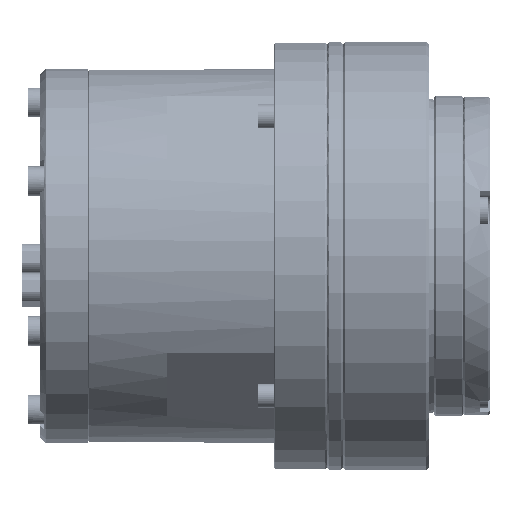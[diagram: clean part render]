
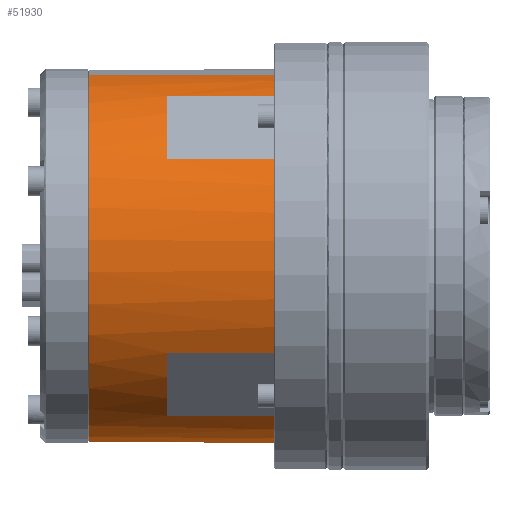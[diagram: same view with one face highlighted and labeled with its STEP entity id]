
A CAD part, front view. The second image highlights one B-rep face of the part: STEP entity #51930.
In plain terms, the highlighted cylindrical face has radius 35 mm (diameter 70 mm), a partial arc.
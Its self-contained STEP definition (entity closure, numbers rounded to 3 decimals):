
#2360 = DIRECTION ( 'NONE',  ( 1., 0., 0. ) ) ;
#5833 = ORIENTED_EDGE ( 'NONE', *, *, #343856, .F. ) ;
#6572 = CARTESIAN_POINT ( 'NONE',  ( -29., 0., 0. ) ) ;
#6830 = CARTESIAN_POINT ( 'NONE',  ( -29., -9.059, 33.807 ) ) ;
#24734 = ORIENTED_EDGE ( 'NONE', *, *, #319033, .F. ) ;
#25355 = LINE ( 'NONE', #253314, #280308 ) ;
#37752 = AXIS2_PLACEMENT_3D ( 'NONE', #384165, #204284, #54055 ) ;
#40112 = DIRECTION ( 'NONE',  ( 1., 0., 0. ) ) ;
#42541 = VERTEX_POINT ( 'NONE', #133344 ) ;
#43969 = CIRCLE ( 'NONE', #37752, 35. ) ;
#46710 = VECTOR ( 'NONE', #125293, 1000. ) ;
#47710 = EDGE_CURVE ( 'NONE', #150560, #266801, #103483, .T. ) ;
#50010 = CYLINDRICAL_SURFACE ( 'NONE', #305429, 35. ) ;
#50126 = DIRECTION ( 'NONE',  ( 1., 0., 0. ) ) ;
#51595 = EDGE_CURVE ( 'NONE', #150560, #105103, #305161, .T. ) ;
#51930 = ADVANCED_FACE ( 'NONE', ( #146780 ), #50010, .T. ) ;
#51941 = DIRECTION ( 'NONE',  ( 0., 0.259, -0.966 ) ) ;
#54055 = DIRECTION ( 'NONE',  ( 0., 0.259, -0.966 ) ) ;
#61007 = DIRECTION ( 'NONE',  ( -1., 0., 0. ) ) ;
#62400 = CARTESIAN_POINT ( 'NONE',  ( -49., -29.915, 18.168 ) ) ;
#73464 = CARTESIAN_POINT ( 'NONE',  ( -29., -18.168, -29.915 ) ) ;
#82034 = VERTEX_POINT ( 'NONE', #347558 ) ;
#91730 = CARTESIAN_POINT ( 'NONE',  ( -19., -18.168, -29.915 ) ) ;
#94415 = EDGE_CURVE ( 'NONE', #105103, #126835, #391058, .T. ) ;
#103483 = CIRCLE ( 'NONE', #198353, 35. ) ;
#105103 = VERTEX_POINT ( 'NONE', #73464 ) ;
#105657 = CARTESIAN_POINT ( 'NONE',  ( -63.5, -9.059, 33.807 ) ) ;
#105762 = CARTESIAN_POINT ( 'NONE',  ( -49., -29.915, -18.168 ) ) ;
#112237 = ORIENTED_EDGE ( 'NONE', *, *, #94415, .F. ) ;
#113631 = ORIENTED_EDGE ( 'NONE', *, *, #328148, .F. ) ;
#116163 = CIRCLE ( 'NONE', #318172, 35. ) ;
#124858 = DIRECTION ( 'NONE',  ( 0., -0.259, 0.966 ) ) ;
#125293 = DIRECTION ( 'NONE',  ( 1., 0., 0. ) ) ;
#126835 = VERTEX_POINT ( 'NONE', #356883 ) ;
#132349 = ORIENTED_EDGE ( 'NONE', *, *, #148297, .T. ) ;
#133344 = CARTESIAN_POINT ( 'NONE',  ( -49., -18.168, 29.915 ) ) ;
#136508 = CARTESIAN_POINT ( 'NONE',  ( -29., -18.168, 29.915 ) ) ;
#137834 = CARTESIAN_POINT ( 'NONE',  ( -49., 0., 0. ) ) ;
#146780 = FACE_OUTER_BOUND ( 'NONE', #368856, .T. ) ;
#148297 = EDGE_CURVE ( 'NONE', #289038, #42541, #43969, .T. ) ;
#150560 = VERTEX_POINT ( 'NONE', #170119 ) ;
#151192 = ORIENTED_EDGE ( 'NONE', *, *, #51595, .F. ) ;
#152576 = CARTESIAN_POINT ( 'NONE',  ( -29., 0., 0. ) ) ;
#168253 = VECTOR ( 'NONE', #61007, 1000. ) ;
#168510 = EDGE_CURVE ( 'NONE', #82034, #239165, #116163, .T. ) ;
#170119 = CARTESIAN_POINT ( 'NONE',  ( -49., -18.168, -29.915 ) ) ;
#171232 = LINE ( 'NONE', #351134, #216675 ) ;
#171455 = ORIENTED_EDGE ( 'NONE', *, *, #311752, .F. ) ;
#172697 = CARTESIAN_POINT ( 'NONE',  ( -29., 0., 0. ) ) ;
#178363 = ORIENTED_EDGE ( 'NONE', *, *, #390150, .F. ) ;
#185513 = LINE ( 'NONE', #304112, #207210 ) ;
#188985 = VERTEX_POINT ( 'NONE', #105657 ) ;
#198353 = AXIS2_PLACEMENT_3D ( 'NONE', #137834, #258412, #319639 ) ;
#204284 = DIRECTION ( 'NONE',  ( -1., 0., 0. ) ) ;
#205014 = VECTOR ( 'NONE', #246595, 1000. ) ;
#207210 = VECTOR ( 'NONE', #211295, 1000. ) ;
#211295 = DIRECTION ( 'NONE',  ( -1., 0., 0. ) ) ;
#213318 = ORIENTED_EDGE ( 'NONE', *, *, #264485, .T. ) ;
#214171 = EDGE_CURVE ( 'NONE', #188985, #235314, #315916, .T. ) ;
#216675 = VECTOR ( 'NONE', #291782, 1000. ) ;
#228075 = CARTESIAN_POINT ( 'NONE',  ( -63.5, 0., 0. ) ) ;
#235314 = VERTEX_POINT ( 'NONE', #292141 ) ;
#239165 = VERTEX_POINT ( 'NONE', #291653 ) ;
#246595 = DIRECTION ( 'NONE',  ( -1., 0., 0. ) ) ;
#253314 = CARTESIAN_POINT ( 'NONE',  ( -19., -9.059, 33.807 ) ) ;
#255846 = DIRECTION ( 'NONE',  ( 1., 0., 0. ) ) ;
#258412 = DIRECTION ( 'NONE',  ( -1., 0., 0. ) ) ;
#263637 = DIRECTION ( 'NONE',  ( 0., -0.259, 0.966 ) ) ;
#264485 = EDGE_CURVE ( 'NONE', #272153, #188985, #25355, .T. ) ;
#265414 = CARTESIAN_POINT ( 'NONE',  ( -19., 0., 0. ) ) ;
#266801 = VERTEX_POINT ( 'NONE', #105762 ) ;
#271120 = AXIS2_PLACEMENT_3D ( 'NONE', #152576, #2360, #124858 ) ;
#272153 = VERTEX_POINT ( 'NONE', #6830 ) ;
#278094 = AXIS2_PLACEMENT_3D ( 'NONE', #228075, #50126, #315091 ) ;
#280308 = VECTOR ( 'NONE', #316533, 1000. ) ;
#285530 = ORIENTED_EDGE ( 'NONE', *, *, #47710, .T. ) ;
#289038 = VERTEX_POINT ( 'NONE', #62400 ) ;
#289106 = ORIENTED_EDGE ( 'NONE', *, *, #214171, .T. ) ;
#291653 = CARTESIAN_POINT ( 'NONE',  ( -29., -29.915, -18.168 ) ) ;
#291782 = DIRECTION ( 'NONE',  ( 1., 0., 0. ) ) ;
#292141 = CARTESIAN_POINT ( 'NONE',  ( -63.5, 9.059, -33.807 ) ) ;
#302284 = VERTEX_POINT ( 'NONE', #136508 ) ;
#304112 = CARTESIAN_POINT ( 'NONE',  ( -19., -29.915, -18.168 ) ) ;
#305161 = LINE ( 'NONE', #91730, #46710 ) ;
#305429 = AXIS2_PLACEMENT_3D ( 'NONE', #265414, #320793, #51941 ) ;
#305875 = LINE ( 'NONE', #341377, #205014 ) ;
#310885 = DIRECTION ( 'NONE',  ( 0., -0.259, 0.966 ) ) ;
#311752 = EDGE_CURVE ( 'NONE', #289038, #82034, #171232, .T. ) ;
#312630 = CIRCLE ( 'NONE', #363200, 35. ) ;
#315091 = DIRECTION ( 'NONE',  ( 0., 0.259, -0.966 ) ) ;
#315916 = CIRCLE ( 'NONE', #278094, 35. ) ;
#316533 = DIRECTION ( 'NONE',  ( -1., 0., 0. ) ) ;
#318172 = AXIS2_PLACEMENT_3D ( 'NONE', #6572, #40112, #310885 ) ;
#319033 = EDGE_CURVE ( 'NONE', #126835, #235314, #331820, .T. ) ;
#319639 = DIRECTION ( 'NONE',  ( 0., 0.259, -0.966 ) ) ;
#320793 = DIRECTION ( 'NONE',  ( -1., 0., 0. ) ) ;
#322410 = ORIENTED_EDGE ( 'NONE', *, *, #168510, .F. ) ;
#328148 = EDGE_CURVE ( 'NONE', #302284, #42541, #305875, .T. ) ;
#331820 = LINE ( 'NONE', #389216, #168253 ) ;
#341377 = CARTESIAN_POINT ( 'NONE',  ( -19., -18.168, 29.915 ) ) ;
#343856 = EDGE_CURVE ( 'NONE', #239165, #266801, #185513, .T. ) ;
#347558 = CARTESIAN_POINT ( 'NONE',  ( -29., -29.915, 18.168 ) ) ;
#351134 = CARTESIAN_POINT ( 'NONE',  ( -19., -29.915, 18.168 ) ) ;
#356883 = CARTESIAN_POINT ( 'NONE',  ( -29., 9.059, -33.807 ) ) ;
#363200 = AXIS2_PLACEMENT_3D ( 'NONE', #172697, #255846, #263637 ) ;
#368856 = EDGE_LOOP ( 'NONE', ( #178363, #213318, #289106, #24734, #112237, #151192, #285530, #5833, #322410, #171455, #132349, #113631 ) ) ;
#384165 = CARTESIAN_POINT ( 'NONE',  ( -49., 0., 0. ) ) ;
#389216 = CARTESIAN_POINT ( 'NONE',  ( -19., 9.059, -33.807 ) ) ;
#390150 = EDGE_CURVE ( 'NONE', #272153, #302284, #312630, .T. ) ;
#391058 = CIRCLE ( 'NONE', #271120, 35. ) ;
